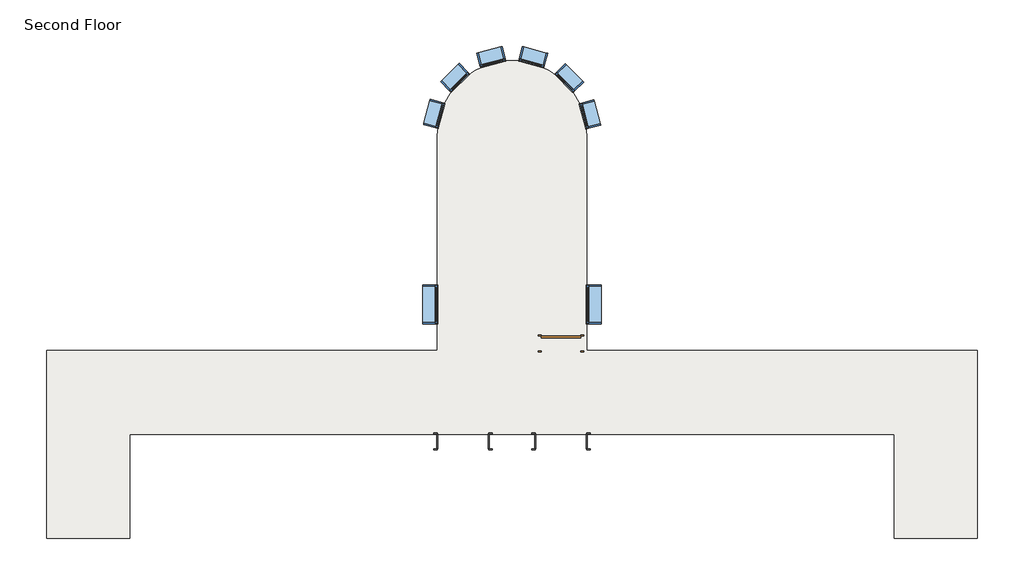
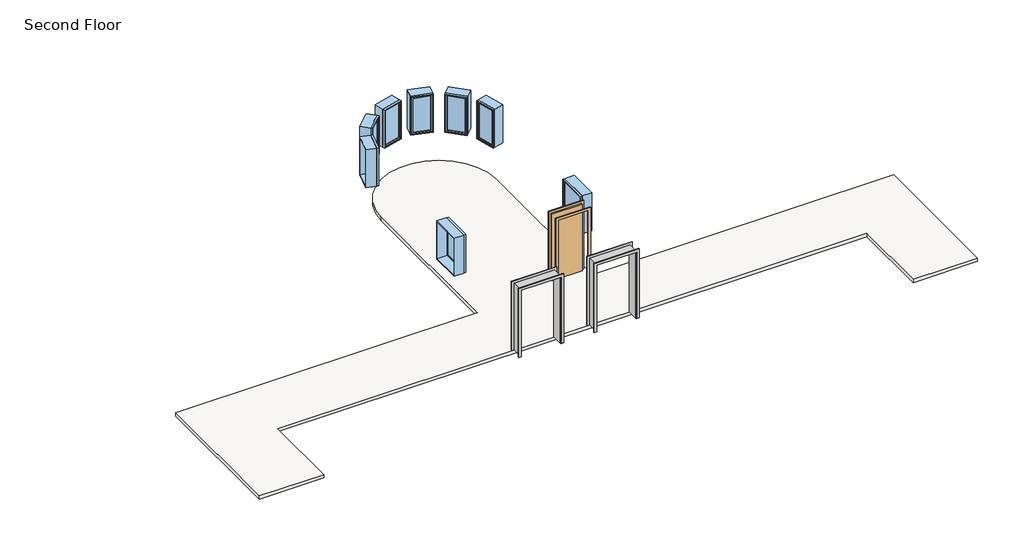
# One storey: 8 windows, 2 proxies, 1 door, 1 slab.
"""IFC4 building model written with IfcOpenShell, lengths in millimetres."""

from ifc_helpers import new_model, si_unit, point, frame, frame_2d, origin, place, context, project, spatial, polyline, circle_curve, trimmed, segment, composite_curve, outline, extrude, transform, mapped, element, save
from components import proxy_c3589814, door_632be17d, window_60baf983, window_15c49d37

model = new_model("IFC4")

# Units and contexts
model_context = context("Model", 3, world=origin())
ifc_project = project(units=[si_unit("LENGTHUNIT", "METRE", prefix="MILLI")], contexts=[model_context])

# Site, building, storey
site = spatial("IfcSite", under=ifc_project)
building = spatial("IfcBuilding", under=site)
storey = spatial("IfcBuildingStorey", under=building, Name="Second Floor", Elevation=3048.0)

# Proxies
placement = place(None, origin())
proxy_shape = proxy_c3589814(model_context)
element("IfcBuildingElementProxy", 1, Name="Opening-Cased : 48\" x 84\"", ObjectType="Opening-Cased : 48\" x 84\"", at=placement, inside=storey, context=model_context, shape_type="MappedRepresentation", body=[
    mapped(proxy_shape, transform((-7396.8036255, 2429.9758812, 3048.0), x_axis=(-1.0, 0.0, 0.0), y_axis=(0.0, -1.0, 0.0), z_axis=(0.0, 0.0, 1.0))),
])
element("IfcBuildingElementProxy", 2, Name="Opening-Cased : 48\" x 84\"", ObjectType="Opening-Cased : 48\" x 84\"", at=placement, inside=storey, context=model_context, shape_type="MappedRepresentation", body=[
    mapped(proxy_shape, transform((-5110.8036255, 2429.9758812, 3048.0), x_axis=(-1.0, 0.0, 0.0), y_axis=(0.0, -1.0, 0.0), z_axis=(0.0, 0.0, 1.0))),
])

# Door
door_shape = door_632be17d(model_context)
element("IfcDoor", 3, ObjectType="Single-Flush : 36\" x 84\"", at=placement, inside=storey, context=model_context, shape_type="MappedRepresentation", body=[
    mapped(door_shape, transform((-5102.6149687, 4715.9758812, 3048.0), x_axis=(1.0, 0.0, 0.0), y_axis=(0.0, 1.0, 0.0), z_axis=(0.0, 0.0, 1.0))),
])

# Slab
element("IfcSlab", 4, ObjectType="LW Concrete on Metal Deck", at=placement, inside=storey, context=model_context, shape_type="SweptSolid", body=[
    extrude(outline(composite_curve([segment(polyline([(-4504.1274687, 9592.7758812), (-4504.1274687, 4552.4633812), (4627.1725313, 4552.4633812), (4627.1725313, 167.7883812), (2680.8975313, 167.7883812), (2680.8975313, 2593.4883812), (-15172.1274687, 2593.4883812), (-15172.1274687, 167.7883812), (-17118.4024687, 167.7883812), (-17118.4024687, 4552.4633812), (-7987.1024687, 4552.4633812), (-7987.1024687, 9592.7758812)]), True, "CONTINUOUS"), segment(trimmed(circle_curve(frame_2d((-6245.6149687, 9592.7758812)), 1741.4875), [point((-7987.1024687, 9592.7758812))], [point((-4504.1274687, 9592.7758812))], False, "CARTESIAN"), True, "CONTINUOUS")], self_intersect=False)), frame((0.0, 0.0, 2943.225), z_axis=(0.0, 0.0, 1.0), x_axis=(1.0, 0.0, 0.0)), (0.0, 0.0, 1.0), 104.775),
])

# Windows
window_shape = window_60baf983(model_context)
element("IfcWindow", 5, ObjectType="Fixed : 24\" x 48\"", at=placement, inside=storey, context=model_context, shape_type="MappedRepresentation", body=[
    mapped(window_shape, transform((-8072.5076754, 10048.7859441, 3048.0), x_axis=(-0.2617614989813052, -0.9651325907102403, 0.0), y_axis=(0.9651325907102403, -0.2617614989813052, 0.0), z_axis=(0.0, 0.0, 1.0))),
])
element("IfcWindow", 6, ObjectType="Fixed : 24\" x 48\"", at=placement, inside=storey, context=model_context, shape_type="MappedRepresentation", body=[
    mapped(window_shape, transform((-7599.7454312, 10901.1385333, 3048.0), x_axis=(-0.7092584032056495, -0.7049485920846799, 0.0), y_axis=(0.7049485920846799, -0.7092584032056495, 0.0), z_axis=(0.0, 0.0, 1.0))),
])
element("IfcWindow", 7, ObjectType="Fixed : 24\" x 48\"", at=placement, inside=storey, context=model_context, shape_type="MappedRepresentation", body=[
    mapped(window_shape, transform((-6764.1450232, 11402.9164066, 3048.0), x_axis=(-0.96671009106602, -0.25587418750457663, 0.0), y_axis=(0.25587418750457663, -0.96671009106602, 0.0), z_axis=(0.0, 0.0, 1.0))),
])
element("IfcWindow", 8, ObjectType="Fixed : 24\" x 48\"", at=placement, inside=storey, context=model_context, shape_type="MappedRepresentation", body=[
    mapped(window_shape, transform((-5789.6049059, 11419.6685878, 3048.0), x_axis=(-0.9651325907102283, 0.2617614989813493, 0.0), y_axis=(-0.2617614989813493, -0.9651325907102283, 0.0), z_axis=(0.0, 0.0, 1.0))),
])
element("IfcWindow", 9, ObjectType="Fixed : 24\" x 48\"", at=placement, inside=storey, context=model_context, shape_type="MappedRepresentation", body=[
    mapped(window_shape, transform((-4937.2523166, 10946.9063437, 3048.0), x_axis=(-0.7049485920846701, 0.7092584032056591, 0.0), y_axis=(-0.7092584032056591, -0.7049485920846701, 0.0), z_axis=(0.0, 0.0, 1.0))),
])
element("IfcWindow", 10, ObjectType="Fixed : 24\" x 48\"", at=placement, inside=storey, context=model_context, shape_type="MappedRepresentation", body=[
    mapped(window_shape, transform((-4435.4744434, 10111.3059357, 3048.0), x_axis=(-0.25587418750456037, 0.9667100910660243, 0.0), y_axis=(-0.9667100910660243, -0.25587418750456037, 0.0), z_axis=(0.0, 0.0, 1.0))),
])
window_2_shape = window_15c49d37(model_context)
element("IfcWindow", 11, ObjectType="Fixed : 36\" x 48\"", at=placement, inside=storey, context=model_context, shape_type="MappedRepresentation", body=[
    mapped(window_2_shape, transform((-8150.6149687, 5592.2758812, 3048.0), x_axis=(0.0, -1.0, 0.0), y_axis=(1.0, 0.0, 0.0), z_axis=(0.0, 0.0, 1.0))),
])
element("IfcWindow", 12, ObjectType="Fixed : 36\" x 48\"", at=placement, inside=storey, context=model_context, shape_type="MappedRepresentation", body=[
    mapped(window_2_shape, transform((-4340.6149687, 5668.4758812, 3048.0), x_axis=(0.0, 1.0, 0.0), y_axis=(-1.0, 0.0, 0.0), z_axis=(0.0, 0.0, 1.0))),
])

save(model, "model.ifc")
